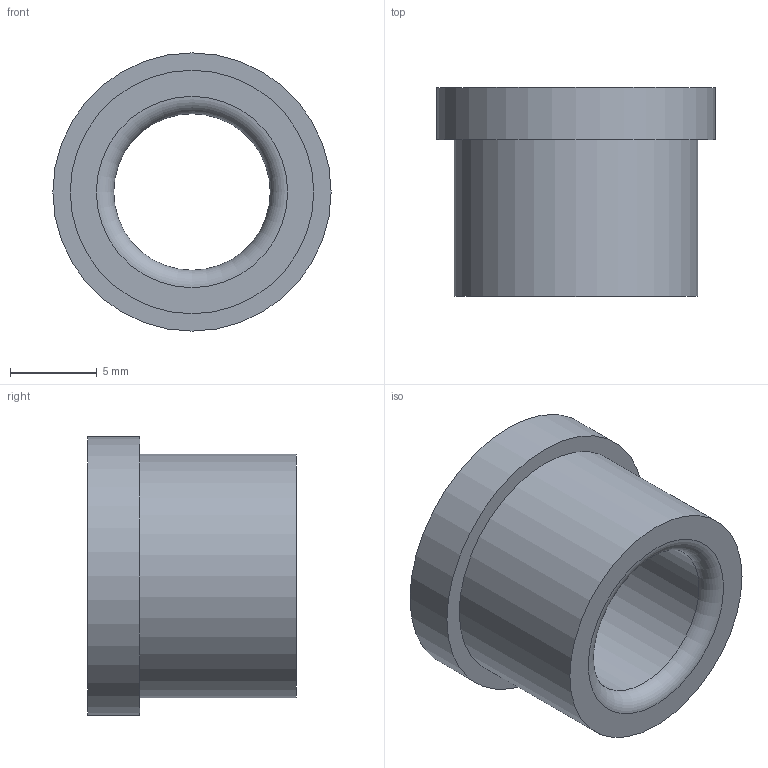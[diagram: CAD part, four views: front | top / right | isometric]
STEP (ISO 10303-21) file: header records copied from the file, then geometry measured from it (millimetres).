
FILE_DESCRIPTION(/* description */ ('STEP AP214'),/* implementation_level */ '2;1');
FILE_NAME(/* name */ '03_12_17830',/* time_stamp */ '2023-06-15T11:35:19+02:00',/* author */ ('License CC BY-ND 4.0'),/* organization */ ('CADENAS'),/* preprocessor_version */ 'ST-DEVELOPER v19.3',/* originating_system */ 'PARTsolutions',/* authorisation */ ' ');
FILE_SCHEMA (('AUTOMOTIVE_DESIGN {1 0 10303 214 3 1 1}'));
Length unit declared in the file: millimetre
Products named in the file (1): VA_Bushing_17830
Bounding box: 16 x 12 x 16 mm (x, y, z)
Volume: 1191 mm3; surface area: 1141.2 mm2
Topology: 1 solids, 1 shells, 10 faces, 16 edges, 10 vertices
Faces by surface type: cylinder 4, plane 4, torus 2
Full cylindrical faces by diameter (mm): 9 x1, 9.6 x1, 14 x1, 16 x1
Entity records: 302 total; most frequent: DIRECTION 42, CARTESIAN_POINT 31, AXIS2_PLACEMENT_3D 21, ORIENTED_EDGE 20, EDGE_LOOP 20, FACE_BOUND 20, EDGE_CURVE 10, VERTEX_POINT 10
